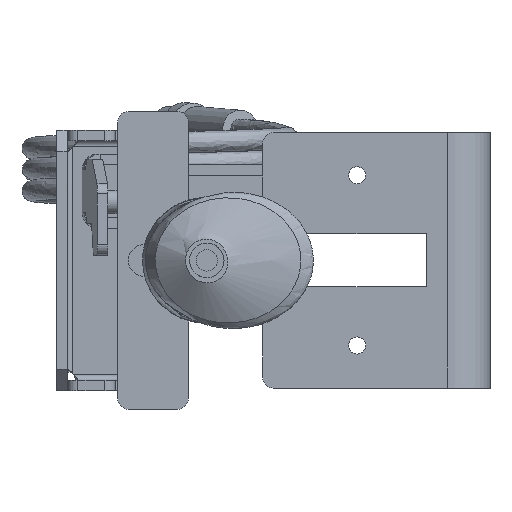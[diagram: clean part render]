
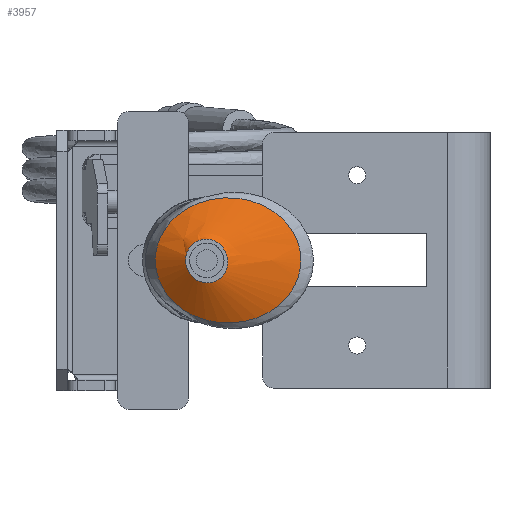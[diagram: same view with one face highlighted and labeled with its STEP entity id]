
A CAD part, left-side view. The second image highlights one B-rep face of the part: STEP entity #3957.
In plain terms, the highlighted free-form (B-spline) face has degree [3, 3] with [7, 6] control points.
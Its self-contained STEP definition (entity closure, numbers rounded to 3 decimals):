
#23=(
BOUNDED_CURVE()
B_SPLINE_CURVE(3,(#14484,#14485,#14486,#14487,#14488,#14489,#14490),
 .UNSPECIFIED.,.T.,.F.)
B_SPLINE_CURVE_WITH_KNOTS((1,3,3,3,1),(-0.5,0.,0.5,1.,1.5),
 .UNSPECIFIED.)
CURVE()
GEOMETRIC_REPRESENTATION_ITEM()
RATIONAL_B_SPLINE_CURVE((1.,0.333,0.333,1.,0.333,
0.333,1.))
REPRESENTATION_ITEM('')
);
#60=(
BOUNDED_SURFACE()
B_SPLINE_SURFACE(3,3,((#14492,#14493,#14494,#14495,#14496,#14497),(#14498,
#14499,#14500,#14501,#14502,#14503),(#14504,#14505,#14506,#14507,#14508,
#14509),(#14510,#14511,#14512,#14513,#14514,#14515),(#14516,#14517,#14518,
#14519,#14520,#14521),(#14522,#14523,#14524,#14525,#14526,#14527),(#14528,
#14529,#14530,#14531,#14532,#14533)),.UNSPECIFIED.,.T.,.F.,.F.)
B_SPLINE_SURFACE_WITH_KNOTS((1,3,3,3,1),(4,1,1,4),(-0.5,0.,0.5,1.,1.5),
(0.,0.333,0.667,1.),.UNSPECIFIED.)
GEOMETRIC_REPRESENTATION_ITEM()
RATIONAL_B_SPLINE_SURFACE(((1.,1.,1.,1.,1.,1.),(0.333,0.333,
0.333,0.333,0.333,0.333),
(0.333,0.333,0.333,0.333,
0.333,0.333),(1.,1.,1.,1.,1.,1.),(0.333,
0.333,0.333,0.333,0.333,
0.333),(0.333,0.333,0.333,
0.333,0.333,0.333),(1.,1.,1.,1.,1.,
1.)))
REPRESENTATION_ITEM('')
SURFACE()
);
#115=B_SPLINE_CURVE_WITH_KNOTS('',3,(#14465,#14466,#14467,#14468,#14469,
#14470,#14471,#14472,#14473,#14474,#14475,#14476,#14477,#14478,#14479,#14480,
#14481,#14482),.UNSPECIFIED.,.T.,.F.,(2,2,2,2,2,2,2,2,2,2,2),(-0.125,0.,
0.125,0.25,0.375,0.5,0.625,0.75,0.875,1.,1.125),.UNSPECIFIED.);
#3523=FACE_BOUND('',#4824,.T.);
#3524=FACE_BOUND('',#4825,.T.);
#3957=ADVANCED_FACE('',(#3523,#3524),#60,.T.);
#4824=EDGE_LOOP('',(#6019));
#4825=EDGE_LOOP('',(#6020));
#6019=ORIENTED_EDGE('',*,*,#7388,.F.);
#6020=ORIENTED_EDGE('',*,*,#7389,.T.);
#6746=VERTEX_POINT('',#14483);
#6747=VERTEX_POINT('',#14491);
#7388=EDGE_CURVE('',#6746,#6746,#115,.T.);
#7389=EDGE_CURVE('',#6747,#6747,#23,.T.);
#14465=CARTESIAN_POINT('',(-80.963,7.144,1.696));
#14466=CARTESIAN_POINT('',(-80.963,7.144,-1.696));
#14467=CARTESIAN_POINT('',(-80.946,6.472,-3.345));
#14468=CARTESIAN_POINT('',(-80.89,4.215,-5.827));
#14469=CARTESIAN_POINT('',(-80.851,2.608,-6.648));
#14470=CARTESIAN_POINT('',(-80.769,-0.736,-6.797));
#14471=CARTESIAN_POINT('',(-80.726,-2.449,-6.181));
#14472=CARTESIAN_POINT('',(-80.667,-4.855,-3.829));
#14473=CARTESIAN_POINT('',(-80.652,-5.474,-2.113));
#14474=CARTESIAN_POINT('',(-80.653,-5.421,1.242));
#14475=CARTESIAN_POINT('',(-80.669,-4.774,2.921));
#14476=CARTESIAN_POINT('',(-80.722,-2.613,5.456));
#14477=CARTESIAN_POINT('',(-80.762,-0.984,6.29));
#14478=CARTESIAN_POINT('',(-80.845,2.372,6.423));
#14479=CARTESIAN_POINT('',(-80.887,4.071,5.745));
#14480=CARTESIAN_POINT('',(-80.946,6.461,3.366));
#14481=CARTESIAN_POINT('',(-80.963,7.144,1.696));
#14482=CARTESIAN_POINT('',(-80.963,7.144,-1.696));
#14483=CARTESIAN_POINT('',(-80.962,7.144,0.));
#14484=CARTESIAN_POINT('',(-74.612,16.161,0.));
#14485=CARTESIAN_POINT('',(-74.613,16.161,-37.389));
#14486=CARTESIAN_POINT('',(-74.613,-27.273,-37.389));
#14487=CARTESIAN_POINT('',(-74.613,-27.273,0.));
#14488=CARTESIAN_POINT('',(-74.612,-27.273,37.389));
#14489=CARTESIAN_POINT('',(-74.612,16.161,37.389));
#14490=CARTESIAN_POINT('',(-74.612,16.161,0.));
#14491=CARTESIAN_POINT('',(-74.612,16.161,0.));
#14492=CARTESIAN_POINT('',(-74.612,16.161,0.));
#14493=CARTESIAN_POINT('',(-75.318,15.159,0.));
#14494=CARTESIAN_POINT('',(-76.729,13.155,0.));
#14495=CARTESIAN_POINT('',(-78.846,10.149,0.));
#14496=CARTESIAN_POINT('',(-80.257,8.146,0.));
#14497=CARTESIAN_POINT('',(-80.962,7.144,0.));
#14498=CARTESIAN_POINT('',(-74.613,16.161,-37.389));
#14499=CARTESIAN_POINT('',(-75.618,15.159,-35.183));
#14500=CARTESIAN_POINT('',(-77.977,13.155,-28.226));
#14501=CARTESIAN_POINT('',(-80.915,10.149,-16.716));
#14502=CARTESIAN_POINT('',(-81.378,8.146,-12.7));
#14503=CARTESIAN_POINT('',(-80.962,7.144,-12.7));
#14504=CARTESIAN_POINT('',(-74.613,-27.273,-37.389));
#14505=CARTESIAN_POINT('',(-75.618,-25.404,-35.183));
#14506=CARTESIAN_POINT('',(-77.977,-18.664,-28.226));
#14507=CARTESIAN_POINT('',(-80.915,-7.466,-16.716));
#14508=CARTESIAN_POINT('',(-81.378,-4.554,-12.7));
#14509=CARTESIAN_POINT('',(-80.962,-5.556,-12.7));
#14510=CARTESIAN_POINT('',(-74.613,-27.273,0.));
#14511=CARTESIAN_POINT('',(-75.468,-25.404,0.));
#14512=CARTESIAN_POINT('',(-77.353,-18.664,0.));
#14513=CARTESIAN_POINT('',(-79.88,-7.466,0.));
#14514=CARTESIAN_POINT('',(-80.818,-4.554,0.));
#14515=CARTESIAN_POINT('',(-80.963,-5.556,0.));
#14516=CARTESIAN_POINT('',(-74.612,-27.273,37.389));
#14517=CARTESIAN_POINT('',(-75.318,-25.404,35.183));
#14518=CARTESIAN_POINT('',(-76.729,-18.664,28.226));
#14519=CARTESIAN_POINT('',(-78.846,-7.466,16.716));
#14520=CARTESIAN_POINT('',(-80.257,-4.554,12.7));
#14521=CARTESIAN_POINT('',(-80.962,-5.556,12.7));
#14522=CARTESIAN_POINT('',(-74.612,16.161,37.389));
#14523=CARTESIAN_POINT('',(-75.018,15.159,35.183));
#14524=CARTESIAN_POINT('',(-75.481,13.155,28.226));
#14525=CARTESIAN_POINT('',(-76.777,10.149,16.716));
#14526=CARTESIAN_POINT('',(-79.136,8.146,12.7));
#14527=CARTESIAN_POINT('',(-80.962,7.144,12.7));
#14528=CARTESIAN_POINT('',(-74.612,16.161,0.));
#14529=CARTESIAN_POINT('',(-75.318,15.159,0.));
#14530=CARTESIAN_POINT('',(-76.729,13.155,0.));
#14531=CARTESIAN_POINT('',(-78.846,10.149,0.));
#14532=CARTESIAN_POINT('',(-80.257,8.146,0.));
#14533=CARTESIAN_POINT('',(-80.962,7.144,0.));
